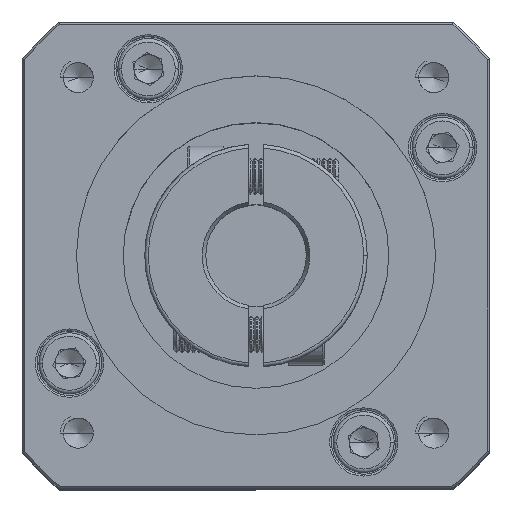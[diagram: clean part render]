
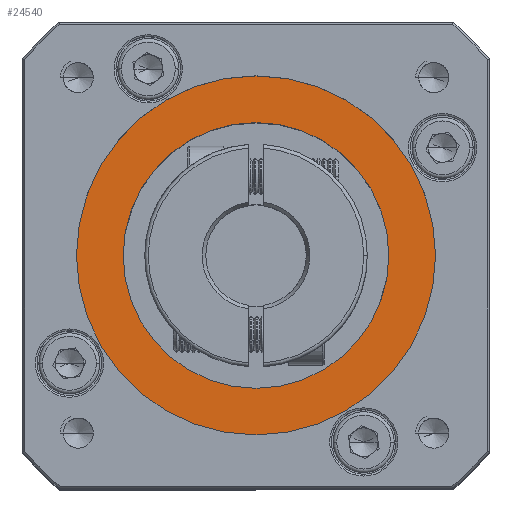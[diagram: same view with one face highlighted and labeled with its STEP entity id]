
A CAD part, top view. The second image highlights one B-rep face of the part: STEP entity #24540.
In plain terms, the highlighted planar face has unit normal (0, 0, 1).
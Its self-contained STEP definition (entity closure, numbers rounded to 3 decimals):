
#654 = DIRECTION ( 'NONE',  ( 0., 0., -1. ) ) ;
#3808 = DIRECTION ( 'NONE',  ( 0., 0., -1. ) ) ;
#5225 = PLANE ( 'NONE',  #16035 ) ;
#11635 = CARTESIAN_POINT ( 'NONE',  ( -40.761, 29.91, 0.906 ) ) ;
#16035 = AXIS2_PLACEMENT_3D ( 'NONE', #98173, #97391, #42276 ) ;
#16696 = CIRCLE ( 'NONE', #76320, 25. ) ;
#16914 = CARTESIAN_POINT ( 'NONE',  ( -59.261, 29.91, 0.906 ) ) ;
#20991 = DIRECTION ( 'NONE',  ( 1., 0., 0. ) ) ;
#24540 = ADVANCED_FACE ( 'NONE', ( #50551, #98388 ), #5225, .T. ) ;
#24931 = EDGE_CURVE ( 'NONE', #39516, #25444, #101060, .T. ) ;
#25444 = VERTEX_POINT ( 'NONE', #57454 ) ;
#33695 = VERTEX_POINT ( 'NONE', #16914 ) ;
#37872 = ORIENTED_EDGE ( 'NONE', *, *, #116388, .T. ) ;
#37965 = AXIS2_PLACEMENT_3D ( 'NONE', #11635, #76554, #20991 ) ;
#39516 = VERTEX_POINT ( 'NONE', #93077 ) ;
#40774 = ORIENTED_EDGE ( 'NONE', *, *, #24931, .T. ) ;
#42276 = DIRECTION ( 'NONE',  ( 1., 0., 0. ) ) ;
#44803 = CIRCLE ( 'NONE', #92163, 18.5 ) ;
#50551 = FACE_OUTER_BOUND ( 'NONE', #99014, .T. ) ;
#50692 = EDGE_LOOP ( 'NONE', ( #77098, #64560 ) ) ;
#50820 = AXIS2_PLACEMENT_3D ( 'NONE', #102912, #654, #55962 ) ;
#55962 = DIRECTION ( 'NONE',  ( 1., 0., 0. ) ) ;
#57454 = CARTESIAN_POINT ( 'NONE',  ( -15.761, 29.91, 0.906 ) ) ;
#59830 = EDGE_CURVE ( 'NONE', #33695, #103083, #44803, .T. ) ;
#64560 = ORIENTED_EDGE ( 'NONE', *, *, #59830, .T. ) ;
#76320 = AXIS2_PLACEMENT_3D ( 'NONE', #93343, #83962, #102250 ) ;
#76554 = DIRECTION ( 'NONE',  ( 0., 0., 1. ) ) ;
#77098 = ORIENTED_EDGE ( 'NONE', *, *, #110713, .T. ) ;
#83962 = DIRECTION ( 'NONE',  ( 0., 0., 1. ) ) ;
#92163 = AXIS2_PLACEMENT_3D ( 'NONE', #104471, #3808, #106120 ) ;
#93077 = CARTESIAN_POINT ( 'NONE',  ( -65.761, 29.91, 0.906 ) ) ;
#93343 = CARTESIAN_POINT ( 'NONE',  ( -40.761, 29.91, 0.906 ) ) ;
#97391 = DIRECTION ( 'NONE',  ( 0., 0., 1. ) ) ;
#98173 = CARTESIAN_POINT ( 'NONE',  ( -40.761, 29.91, 0.906 ) ) ;
#98388 = FACE_BOUND ( 'NONE', #50692, .T. ) ;
#99014 = EDGE_LOOP ( 'NONE', ( #37872, #40774 ) ) ;
#100198 = CARTESIAN_POINT ( 'NONE',  ( -22.261, 29.91, 0.906 ) ) ;
#101060 = CIRCLE ( 'NONE', #37965, 25. ) ;
#102250 = DIRECTION ( 'NONE',  ( 1., 0., 0. ) ) ;
#102912 = CARTESIAN_POINT ( 'NONE',  ( -40.761, 29.91, 0.906 ) ) ;
#103083 = VERTEX_POINT ( 'NONE', #100198 ) ;
#104471 = CARTESIAN_POINT ( 'NONE',  ( -40.761, 29.91, 0.906 ) ) ;
#106120 = DIRECTION ( 'NONE',  ( 1., 0., 0. ) ) ;
#110713 = EDGE_CURVE ( 'NONE', #103083, #33695, #112084, .T. ) ;
#112084 = CIRCLE ( 'NONE', #50820, 18.5 ) ;
#116388 = EDGE_CURVE ( 'NONE', #25444, #39516, #16696, .T. ) ;
